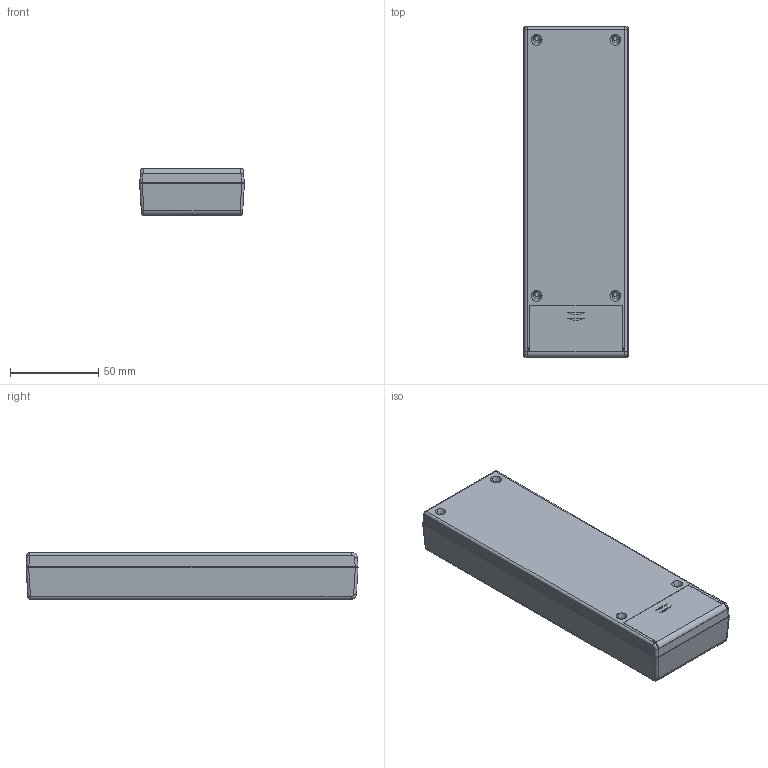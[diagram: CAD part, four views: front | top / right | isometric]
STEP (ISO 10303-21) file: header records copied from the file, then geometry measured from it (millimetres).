
FILE_DESCRIPTION (( 'STEP AP203' ), '1' );
FILE_NAME ('Z-32A.STEP', '2024-08-30T10:10:52', ( '' ), ( '' ), 'SwSTEP 2.0', 'SolidWorks 2013', '' );
FILE_SCHEMA (( 'CONFIG_CONTROL_DESIGN' ));
Length unit declared in the file: millimetre
Products named in the file (5): KMz 32A dol; KMz 32A gora; Z-32A; KMz 32A kpl; KMz 32A klapka
Assembly tree (4 placements, depth 3):
  Z-32A
    KMz 32A kpl
      KMz 32A dol
      KMz 32A gora
      KMz 32A klapka
Bounding box: 59.4 x 188.1 x 26.45 mm (x, y, z)
Volume: 78818.9 mm3; surface area: 72805.9 mm2
Topology: 3 solids, 3 shells, 186 faces, 455 edges, 290 vertices
Faces by surface type: plane 109, cylinder 61, cone 8, bspline 8
Entity records: 6184 total; most frequent: CARTESIAN_POINT 1250, DIRECTION 927, ORIENTED_EDGE 902, EDGE_CURVE 451, VECTOR 309, AXIS2_PLACEMENT_3D 309, LINE 309, VERTEX_POINT 290
